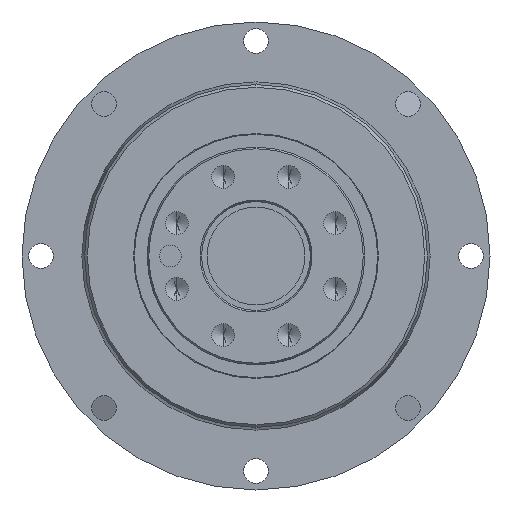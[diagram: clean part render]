
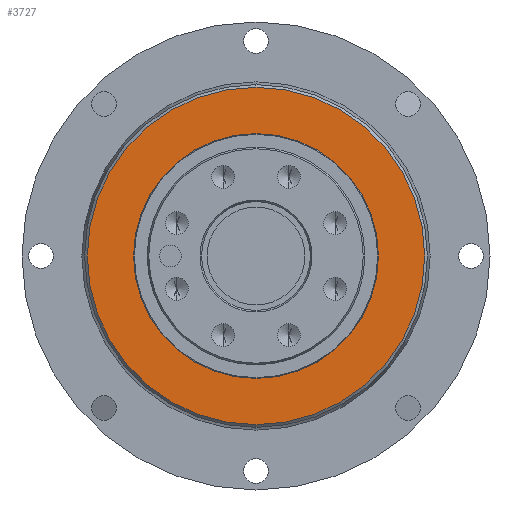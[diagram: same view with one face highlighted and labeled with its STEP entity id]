
A CAD part, left-side view. The second image highlights one B-rep face of the part: STEP entity #3727.
In plain terms, the highlighted planar face has unit normal (-1, 0, 0).
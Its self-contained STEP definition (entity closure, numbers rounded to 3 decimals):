
#127 = EDGE_LOOP ( 'NONE', ( #3768, #3655 ) ) ;
#242 = VERTEX_POINT ( 'NONE', #710 ) ;
#264 = DIRECTION ( 'NONE',  ( 0., 0., 1. ) ) ;
#369 = DIRECTION ( 'NONE',  ( 0., 0., 1. ) ) ;
#699 = DIRECTION ( 'NONE',  ( -1., 0., 0. ) ) ;
#710 = CARTESIAN_POINT ( 'NONE',  ( -7., 0., -22.5 ) ) ;
#814 = DIRECTION ( 'NONE',  ( 0., 0., 1. ) ) ;
#1144 = AXIS2_PLACEMENT_3D ( 'NONE', #2970, #2633, #3235 ) ;
#1415 = ORIENTED_EDGE ( 'NONE', *, *, #1646, .F. ) ;
#1460 = CARTESIAN_POINT ( 'NONE',  ( -7., 0., 0. ) ) ;
#1499 = EDGE_CURVE ( 'NONE', #2443, #2429, #2943, .T. ) ;
#1574 = CIRCLE ( 'NONE', #2702, 31. ) ;
#1629 = CARTESIAN_POINT ( 'NONE',  ( -7., 0., -31. ) ) ;
#1646 = EDGE_CURVE ( 'NONE', #242, #2032, #3506, .T. ) ;
#1786 = CARTESIAN_POINT ( 'NONE',  ( -7., 0., 0. ) ) ;
#1985 = PLANE ( 'NONE',  #1144 ) ;
#2027 = ORIENTED_EDGE ( 'NONE', *, *, #2030, .F. ) ;
#2030 = EDGE_CURVE ( 'NONE', #2032, #242, #3638, .T. ) ;
#2032 = VERTEX_POINT ( 'NONE', #3761 ) ;
#2074 = DIRECTION ( 'NONE',  ( -1., 0., 0. ) ) ;
#2127 = EDGE_LOOP ( 'NONE', ( #2027, #1415 ) ) ;
#2293 = DIRECTION ( 'NONE',  ( 0., 0., 1. ) ) ;
#2304 = FACE_OUTER_BOUND ( 'NONE', #127, .T. ) ;
#2429 = VERTEX_POINT ( 'NONE', #1629 ) ;
#2443 = VERTEX_POINT ( 'NONE', #2849 ) ;
#2470 = AXIS2_PLACEMENT_3D ( 'NONE', #2660, #2910, #2293 ) ;
#2515 = CARTESIAN_POINT ( 'NONE',  ( -7., 0., 0. ) ) ;
#2633 = DIRECTION ( 'NONE',  ( 1., 0., 0. ) ) ;
#2660 = CARTESIAN_POINT ( 'NONE',  ( -7., 0., 0. ) ) ;
#2702 = AXIS2_PLACEMENT_3D ( 'NONE', #2515, #699, #369 ) ;
#2849 = CARTESIAN_POINT ( 'NONE',  ( -7., 0., 31. ) ) ;
#2883 = AXIS2_PLACEMENT_3D ( 'NONE', #1786, #2074, #264 ) ;
#2910 = DIRECTION ( 'NONE',  ( -1., 0., 0. ) ) ;
#2943 = CIRCLE ( 'NONE', #2470, 31. ) ;
#2970 = CARTESIAN_POINT ( 'NONE',  ( -7., 22.5, 0. ) ) ;
#3235 = DIRECTION ( 'NONE',  ( 0., 0., -1. ) ) ;
#3382 = AXIS2_PLACEMENT_3D ( 'NONE', #1460, #3518, #814 ) ;
#3506 = CIRCLE ( 'NONE', #2883, 22.5 ) ;
#3518 = DIRECTION ( 'NONE',  ( -1., 0., 0. ) ) ;
#3573 = EDGE_CURVE ( 'NONE', #2429, #2443, #1574, .T. ) ;
#3586 = FACE_BOUND ( 'NONE', #2127, .T. ) ;
#3638 = CIRCLE ( 'NONE', #3382, 22.5 ) ;
#3655 = ORIENTED_EDGE ( 'NONE', *, *, #1499, .T. ) ;
#3727 = ADVANCED_FACE ( 'NONE', ( #3586, #2304 ), #1985, .F. ) ;
#3761 = CARTESIAN_POINT ( 'NONE',  ( -7., 0., 22.5 ) ) ;
#3768 = ORIENTED_EDGE ( 'NONE', *, *, #3573, .T. ) ;
